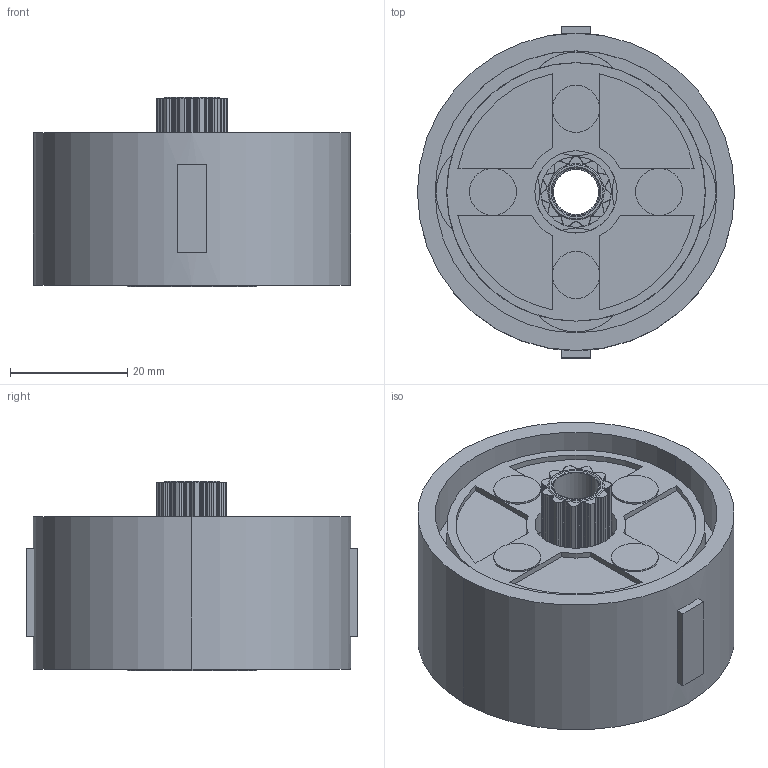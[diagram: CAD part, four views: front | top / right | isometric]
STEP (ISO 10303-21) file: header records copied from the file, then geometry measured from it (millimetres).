
FILE_DESCRIPTION (( 'STEP AP203' ), '1' );
FILE_NAME ('LGU54-4CLD.step', '2021-07-23T02:23:59', ( '' ), ( '' ), 'SwSTEP 2.0', 'SolidWorks 2021', '' );
FILE_SCHEMA (( 'CONFIG_CONTROL_DESIGN' ));
Length unit declared in the file: millimetre
Products named in the file (1): LGU54-4CLD
Bounding box: 54 x 56.5 x 32.25 mm (x, y, z)
Volume: 44698.5 mm3; surface area: 18784.3 mm2
Topology: 1 solids, 1 shells, 452 faces, 1282 edges, 844 vertices
Faces by surface type: cylinder 365, plane 81, cone 6
Entity records: 15239 total; most frequent: DIRECTION 2988, CARTESIAN_POINT 2603, ORIENTED_EDGE 2564, EDGE_CURVE 1282, AXIS2_PLACEMENT_3D 1261, VERTEX_POINT 844, CIRCLE 808, EDGE_LOOP 482
